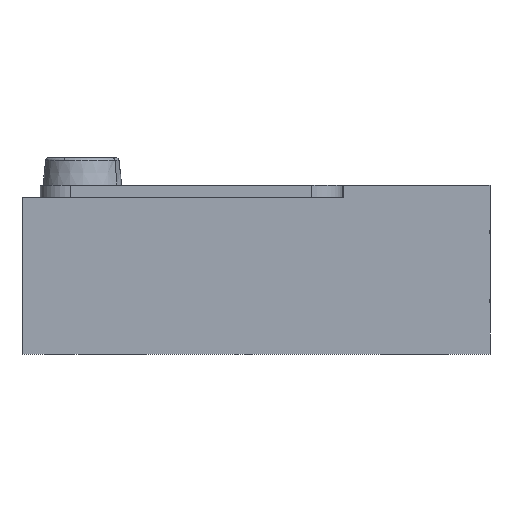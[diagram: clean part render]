
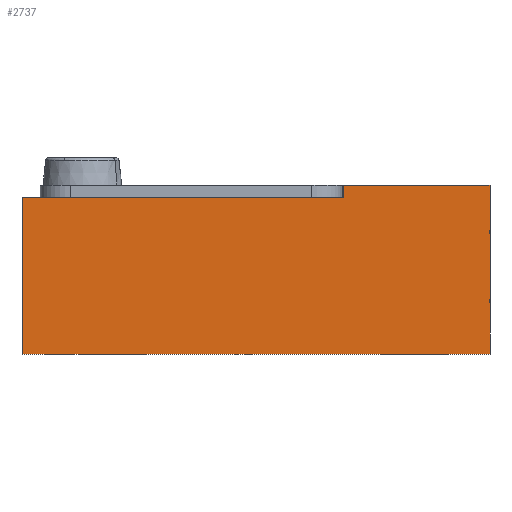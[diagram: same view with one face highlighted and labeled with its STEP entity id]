
A CAD part, front view. The second image highlights one B-rep face of the part: STEP entity #2737.
In plain terms, the highlighted planar face has unit normal (0, -1, 0).
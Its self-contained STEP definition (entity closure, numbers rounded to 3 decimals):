
#2699=AXIS2_PLACEMENT_3D('Plane Axis2P3D',#2696,#2697,#2698) ;
#979=CARTESIAN_POINT('Vertex',(-8.,-10.75,2.4)) ;
#1033=CARTESIAN_POINT('Vertex',(-8.,-10.75,-2.8)) ;
#1036=CARTESIAN_POINT('Line Origine',(-8.,-10.75,-0.2)) ;
#1271=CARTESIAN_POINT('Vertex',(7.5,-10.75,1.3)) ;
#1276=CARTESIAN_POINT('Line Origine',(7.5,-10.75,0.71)) ;
#1280=CARTESIAN_POINT('Vertex',(7.5,-10.75,0.9)) ;
#1283=CARTESIAN_POINT('Line Origine',(7.5,-10.75,0.71)) ;
#1287=CARTESIAN_POINT('Vertex',(7.5,-10.75,-0.7)) ;
#1290=CARTESIAN_POINT('Line Origine',(7.5,-10.75,0.71)) ;
#1294=CARTESIAN_POINT('Vertex',(7.5,-10.75,-1.1)) ;
#2219=CARTESIAN_POINT('Line Origine',(-2.675,-10.75,2.4)) ;
#2223=CARTESIAN_POINT('Vertex',(2.65,-10.75,2.4)) ;
#2562=CARTESIAN_POINT('Vertex',(7.5,-10.75,-2.8)) ;
#2565=CARTESIAN_POINT('Line Origine',(-0.25,-10.75,-2.8)) ;
#2696=CARTESIAN_POINT('Axis2P3D Location',(7.5,-10.75,0.)) ;
#2701=CARTESIAN_POINT('Line Origine',(2.65,-10.75,2.6)) ;
#2705=CARTESIAN_POINT('Vertex',(2.65,-10.75,2.8)) ;
#2708=CARTESIAN_POINT('Line Origine',(7.5,-10.75,-1.95)) ;
#2713=CARTESIAN_POINT('Line Origine',(7.5,-10.75,2.05)) ;
#2717=CARTESIAN_POINT('Vertex',(7.5,-10.75,2.8)) ;
#2720=CARTESIAN_POINT('Line Origine',(5.075,-10.75,2.8)) ;
#1037=DIRECTION('Vector Direction',(0.,0.,1.)) ;
#1277=DIRECTION('Vector Direction',(0.,0.,1.)) ;
#1284=DIRECTION('Vector Direction',(0.,0.,1.)) ;
#1291=DIRECTION('Vector Direction',(0.,0.,1.)) ;
#2220=DIRECTION('Vector Direction',(-1.,0.,0.)) ;
#2566=DIRECTION('Vector Direction',(-1.,0.,0.)) ;
#2697=DIRECTION('Axis2P3D Direction',(0.,1.,-0.)) ;
#2698=DIRECTION('Axis2P3D XDirection',(-1.,0.,0.)) ;
#2702=DIRECTION('Vector Direction',(0.,0.,1.)) ;
#2709=DIRECTION('Vector Direction',(0.,0.,1.)) ;
#2714=DIRECTION('Vector Direction',(0.,0.,1.)) ;
#2721=DIRECTION('Vector Direction',(-1.,0.,0.)) ;
#1038=VECTOR('Line Direction',#1037,1.) ;
#1278=VECTOR('Line Direction',#1277,1.) ;
#1285=VECTOR('Line Direction',#1284,1.) ;
#1292=VECTOR('Line Direction',#1291,1.) ;
#2221=VECTOR('Line Direction',#2220,1.) ;
#2567=VECTOR('Line Direction',#2566,1.) ;
#2703=VECTOR('Line Direction',#2702,1.) ;
#2710=VECTOR('Line Direction',#2709,1.) ;
#2715=VECTOR('Line Direction',#2714,1.) ;
#2722=VECTOR('Line Direction',#2721,1.) ;
#2726=ORIENTED_EDGE('',*,*,#2707,.T.) ;
#2727=ORIENTED_EDGE('',*,*,#2225,.T.) ;
#2728=ORIENTED_EDGE('',*,*,#1040,.F.) ;
#2729=ORIENTED_EDGE('',*,*,#2569,.T.) ;
#2730=ORIENTED_EDGE('',*,*,#2712,.T.) ;
#2731=ORIENTED_EDGE('',*,*,#1296,.F.) ;
#2732=ORIENTED_EDGE('',*,*,#1289,.T.) ;
#2733=ORIENTED_EDGE('',*,*,#1282,.F.) ;
#2734=ORIENTED_EDGE('',*,*,#2719,.T.) ;
#2735=ORIENTED_EDGE('',*,*,#2724,.F.) ;
#2737=ADVANCED_FACE('Brep With Voids',(#2736),#2700,.F.) ;
#1040=EDGE_CURVE('',#1034,#980,#1039,.T.) ;
#1282=EDGE_CURVE('',#1272,#1281,#1279,.F.) ;
#1289=EDGE_CURVE('',#1288,#1281,#1286,.T.) ;
#1296=EDGE_CURVE('',#1288,#1295,#1293,.F.) ;
#2225=EDGE_CURVE('',#2224,#980,#2222,.T.) ;
#2569=EDGE_CURVE('',#1034,#2563,#2568,.F.) ;
#2707=EDGE_CURVE('',#2706,#2224,#2704,.F.) ;
#2712=EDGE_CURVE('',#2563,#1295,#2711,.T.) ;
#2719=EDGE_CURVE('',#1272,#2718,#2716,.T.) ;
#2724=EDGE_CURVE('',#2706,#2718,#2723,.F.) ;
#2725=EDGE_LOOP('',(#2726,#2727,#2728,#2729,#2730,#2731,#2732,#2733,#2734,#2735)) ;
#2736=FACE_OUTER_BOUND('',#2725,.T.) ;
#1039=LINE('Line',#1036,#1038) ;
#1279=LINE('Line',#1276,#1278) ;
#1286=LINE('Line',#1283,#1285) ;
#1293=LINE('Line',#1290,#1292) ;
#2222=LINE('Line',#2219,#2221) ;
#2568=LINE('Line',#2565,#2567) ;
#2704=LINE('Line',#2701,#2703) ;
#2711=LINE('Line',#2708,#2710) ;
#2716=LINE('Line',#2713,#2715) ;
#2723=LINE('Line',#2720,#2722) ;
#2700=PLANE('',#2699) ;
#980=VERTEX_POINT('',#979) ;
#1034=VERTEX_POINT('',#1033) ;
#1272=VERTEX_POINT('',#1271) ;
#1281=VERTEX_POINT('',#1280) ;
#1288=VERTEX_POINT('',#1287) ;
#1295=VERTEX_POINT('',#1294) ;
#2224=VERTEX_POINT('',#2223) ;
#2563=VERTEX_POINT('',#2562) ;
#2706=VERTEX_POINT('',#2705) ;
#2718=VERTEX_POINT('',#2717) ;
